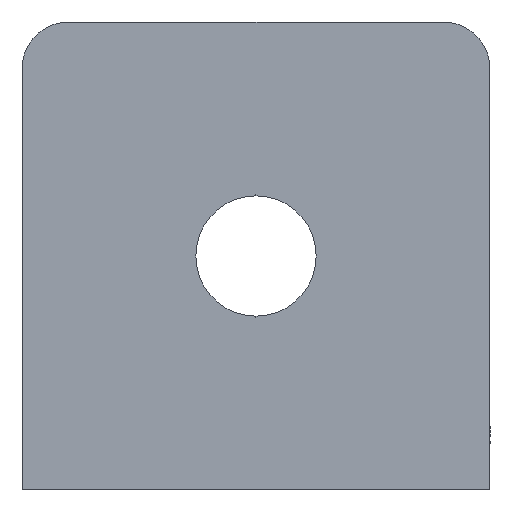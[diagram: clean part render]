
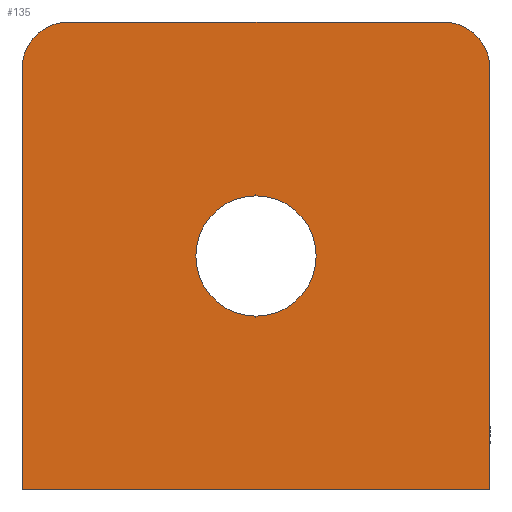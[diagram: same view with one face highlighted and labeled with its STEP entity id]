
A CAD part, left-side view. The second image highlights one B-rep face of the part: STEP entity #135.
In plain terms, the highlighted planar face has unit normal (-1, 0, 0).
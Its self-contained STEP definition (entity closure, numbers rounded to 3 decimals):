
#15 = EDGE_CURVE ( 'NONE', #373, #108, #181, .T. ) ;
#36 = CARTESIAN_POINT ( 'NONE',  ( 0., 0., 15. ) ) ;
#39 = CARTESIAN_POINT ( 'NONE',  ( 0., 15., 11.145 ) ) ;
#41 = CARTESIAN_POINT ( 'NONE',  ( 0., 15., 0. ) ) ;
#62 = ORIENTED_EDGE ( 'NONE', *, *, #322, .T. ) ;
#75 = CARTESIAN_POINT ( 'NONE',  ( 0., 3., 27. ) ) ;
#87 = DIRECTION ( 'NONE',  ( 0., 0., 1. ) ) ;
#93 = ORIENTED_EDGE ( 'NONE', *, *, #535, .F. ) ;
#98 = CIRCLE ( 'NONE', #262, 3.855 ) ;
#108 = VERTEX_POINT ( 'NONE', #154 ) ;
#124 = AXIS2_PLACEMENT_3D ( 'NONE', #528, #445, #437 ) ;
#135 = ADVANCED_FACE ( 'NONE', ( #499, #247 ), #196, .F. ) ;
#141 = AXIS2_PLACEMENT_3D ( 'NONE', #75, #220, #419 ) ;
#148 = DIRECTION ( 'NONE',  ( 1., 0., 0. ) ) ;
#150 = EDGE_CURVE ( 'NONE', #203, #280, #297, .T. ) ;
#154 = CARTESIAN_POINT ( 'NONE',  ( 0., 30., 0. ) ) ;
#167 = ORIENTED_EDGE ( 'NONE', *, *, #150, .F. ) ;
#169 = DIRECTION ( 'NONE',  ( 0., 0., -1. ) ) ;
#170 = ORIENTED_EDGE ( 'NONE', *, *, #400, .T. ) ;
#181 = LINE ( 'NONE', #41, #448 ) ;
#196 = PLANE ( 'NONE',  #623 ) ;
#203 = VERTEX_POINT ( 'NONE', #348 ) ;
#204 = CARTESIAN_POINT ( 'NONE',  ( 0., 15., 15. ) ) ;
#212 = VECTOR ( 'NONE', #231, 1000. ) ;
#220 = DIRECTION ( 'NONE',  ( -1., 0., 0. ) ) ;
#231 = DIRECTION ( 'NONE',  ( 0., 0., -1. ) ) ;
#233 = VECTOR ( 'NONE', #393, 1000. ) ;
#238 = CARTESIAN_POINT ( 'NONE',  ( 0., 15., 15. ) ) ;
#247 = FACE_OUTER_BOUND ( 'NONE', #425, .T. ) ;
#262 = AXIS2_PLACEMENT_3D ( 'NONE', #238, #433, #560 ) ;
#272 = VECTOR ( 'NONE', #169, 1000. ) ;
#275 = EDGE_CURVE ( 'NONE', #616, #280, #515, .T. ) ;
#280 = VERTEX_POINT ( 'NONE', #464 ) ;
#297 = LINE ( 'NONE', #391, #233 ) ;
#322 = EDGE_CURVE ( 'NONE', #514, #108, #555, .T. ) ;
#338 = DIRECTION ( 'NONE',  ( 0., 1., 0. ) ) ;
#339 = CARTESIAN_POINT ( 'NONE',  ( 0., 0., 27. ) ) ;
#348 = CARTESIAN_POINT ( 'NONE',  ( 0., 27., 30. ) ) ;
#361 = ORIENTED_EDGE ( 'NONE', *, *, #275, .T. ) ;
#369 = CIRCLE ( 'NONE', #124, 3.855 ) ;
#373 = VERTEX_POINT ( 'NONE', #516 ) ;
#381 = DIRECTION ( 'NONE',  ( -1., 0., 0. ) ) ;
#391 = CARTESIAN_POINT ( 'NONE',  ( 0., 15., 30. ) ) ;
#393 = DIRECTION ( 'NONE',  ( 0., -1., 0. ) ) ;
#400 = EDGE_CURVE ( 'NONE', #422, #506, #98, .T. ) ;
#419 = DIRECTION ( 'NONE',  ( 0., 0., 1. ) ) ;
#422 = VERTEX_POINT ( 'NONE', #470 ) ;
#425 = EDGE_LOOP ( 'NONE', ( #361, #167, #537, #62, #605, #93 ) ) ;
#430 = CIRCLE ( 'NONE', #533, 3. ) ;
#433 = DIRECTION ( 'NONE',  ( 1., 0., 0. ) ) ;
#437 = DIRECTION ( 'NONE',  ( 0., 1., 0. ) ) ;
#445 = DIRECTION ( 'NONE',  ( 1., 0., 0. ) ) ;
#448 = VECTOR ( 'NONE', #338, 1000. ) ;
#464 = CARTESIAN_POINT ( 'NONE',  ( 0., 3., 30. ) ) ;
#466 = EDGE_LOOP ( 'NONE', ( #534, #170 ) ) ;
#470 = CARTESIAN_POINT ( 'NONE',  ( 0., 15., 18.855 ) ) ;
#474 = LINE ( 'NONE', #36, #212 ) ;
#499 = FACE_BOUND ( 'NONE', #466, .T. ) ;
#500 = EDGE_CURVE ( 'NONE', #203, #514, #430, .T. ) ;
#506 = VERTEX_POINT ( 'NONE', #39 ) ;
#514 = VERTEX_POINT ( 'NONE', #569 ) ;
#515 = CIRCLE ( 'NONE', #141, 3. ) ;
#516 = CARTESIAN_POINT ( 'NONE',  ( 0., 0., 0. ) ) ;
#528 = CARTESIAN_POINT ( 'NONE',  ( 0., 15., 15. ) ) ;
#533 = AXIS2_PLACEMENT_3D ( 'NONE', #567, #381, #87 ) ;
#534 = ORIENTED_EDGE ( 'NONE', *, *, #620, .T. ) ;
#535 = EDGE_CURVE ( 'NONE', #616, #373, #474, .T. ) ;
#537 = ORIENTED_EDGE ( 'NONE', *, *, #500, .T. ) ;
#538 = DIRECTION ( 'NONE',  ( 0., 1., 0. ) ) ;
#555 = LINE ( 'NONE', #599, #272 ) ;
#560 = DIRECTION ( 'NONE',  ( 0., 1., 0. ) ) ;
#567 = CARTESIAN_POINT ( 'NONE',  ( 0., 27., 27. ) ) ;
#569 = CARTESIAN_POINT ( 'NONE',  ( 0., 30., 27. ) ) ;
#599 = CARTESIAN_POINT ( 'NONE',  ( 0., 30., 15. ) ) ;
#605 = ORIENTED_EDGE ( 'NONE', *, *, #15, .F. ) ;
#616 = VERTEX_POINT ( 'NONE', #339 ) ;
#620 = EDGE_CURVE ( 'NONE', #506, #422, #369, .T. ) ;
#623 = AXIS2_PLACEMENT_3D ( 'NONE', #204, #148, #538 ) ;
